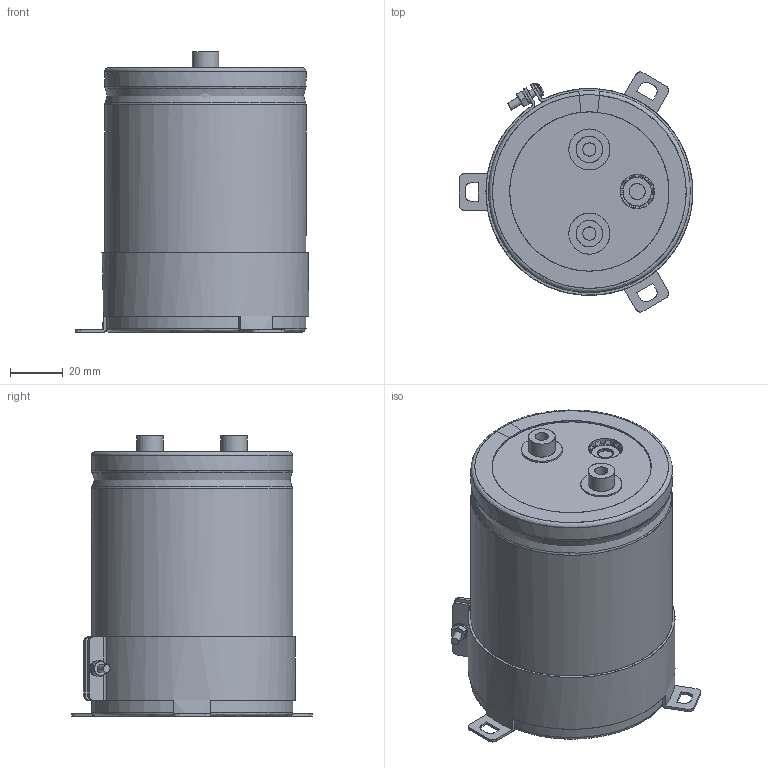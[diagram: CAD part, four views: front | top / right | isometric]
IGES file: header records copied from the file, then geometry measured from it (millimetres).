
Start section: JAMA-IS VERSION  1.0
Bounding box: 88.3 x 90.75 x 106 mm (x, y, z)
Surface area: 102151.5 mm2 (no closed solid volume)
Topology: 0 solids, 0 shells, 259 faces, 4448 edges, 4417 vertices
Faces by surface type: bspline 259
